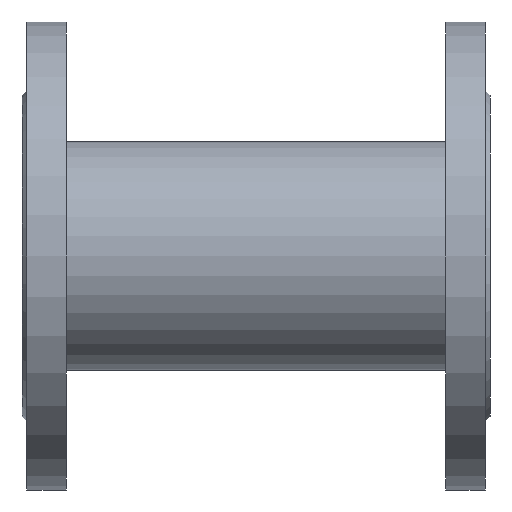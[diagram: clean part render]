
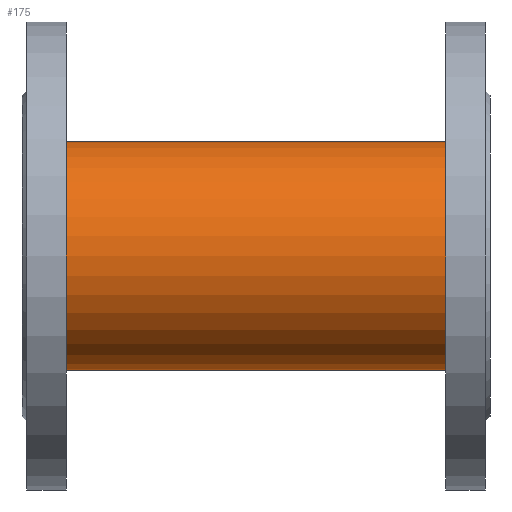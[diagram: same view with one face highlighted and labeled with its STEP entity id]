
A CAD part, front view. The second image highlights one B-rep face of the part: STEP entity #175.
In plain terms, the highlighted cylindrical face has radius 49 mm (diameter 98 mm), a partial arc.
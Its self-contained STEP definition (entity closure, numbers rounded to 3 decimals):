
#175=ADVANCED_FACE('',(#379),#380,.T.);
#379=FACE_OUTER_BOUND('',#642,.T.);
#380=CYLINDRICAL_SURFACE('',#643,49.0);
#642=EDGE_LOOP('',(#1004,#1005,#1006,#1007));
#643=AXIS2_PLACEMENT_3D('',#1008,#1009,#1010);
#1004=ORIENTED_EDGE('',*,*,#1477,.T.);
#1005=ORIENTED_EDGE('',*,*,#1478,.T.);
#1006=ORIENTED_EDGE('',*,*,#1479,.T.);
#1007=ORIENTED_EDGE('',*,*,#1409,.T.);
#1008=CARTESIAN_POINT('',(4.0,0.0,0.));
#1009=DIRECTION('',(1.0,0.0,0.));
#1010=DIRECTION('',(0.,0.0,-1.0));
#1409=EDGE_CURVE('',#1676,#1675,#1678,.T.);
#1477=EDGE_CURVE('',#1675,#1782,#1783,.T.);
#1478=EDGE_CURVE('',#1782,#1784,#1785,.T.);
#1479=EDGE_CURVE('',#1784,#1676,#1786,.T.);
#1675=VERTEX_POINT('',#2016);
#1676=VERTEX_POINT('',#2017);
#1678=CIRCLE('',#2019,49.0);
#1782=VERTEX_POINT('',#2143);
#1783=LINE('',#2144,#2145);
#1784=VERTEX_POINT('',#2146);
#1785=CIRCLE('',#2147,49.0);
#1786=LINE('',#2148,#2149);
#2016=CARTESIAN_POINT('',(4.0,0.0,-49.0));
#2017=CARTESIAN_POINT('',(4.0,0.,49.0));
#2019=AXIS2_PLACEMENT_3D('',#2396,#2397,#2398);
#2143=CARTESIAN_POINT('',(196.0,0.0,-49.0));
#2144=CARTESIAN_POINT('',(4.0,0.,-49.0));
#2145=VECTOR('',#2515,1.0);
#2146=CARTESIAN_POINT('',(196.0,0.,49.0));
#2147=AXIS2_PLACEMENT_3D('',#2516,#2517,#2518);
#2148=CARTESIAN_POINT('',(4.0,0.,49.0));
#2149=VECTOR('',#2519,1.0);
#2396=CARTESIAN_POINT('',(4.0,0.0,0.));
#2397=DIRECTION('',(1.0,0.0,0.));
#2398=DIRECTION('',(0.,0.0,-1.0));
#2515=DIRECTION('',(1.0,0.0,0.));
#2516=CARTESIAN_POINT('',(196.0,0.0,0.));
#2517=DIRECTION('',(-1.0,-0.0,0.));
#2518=DIRECTION('',(0.,0.0,-1.0));
#2519=DIRECTION('',(-1.0,-0.0,0.));
